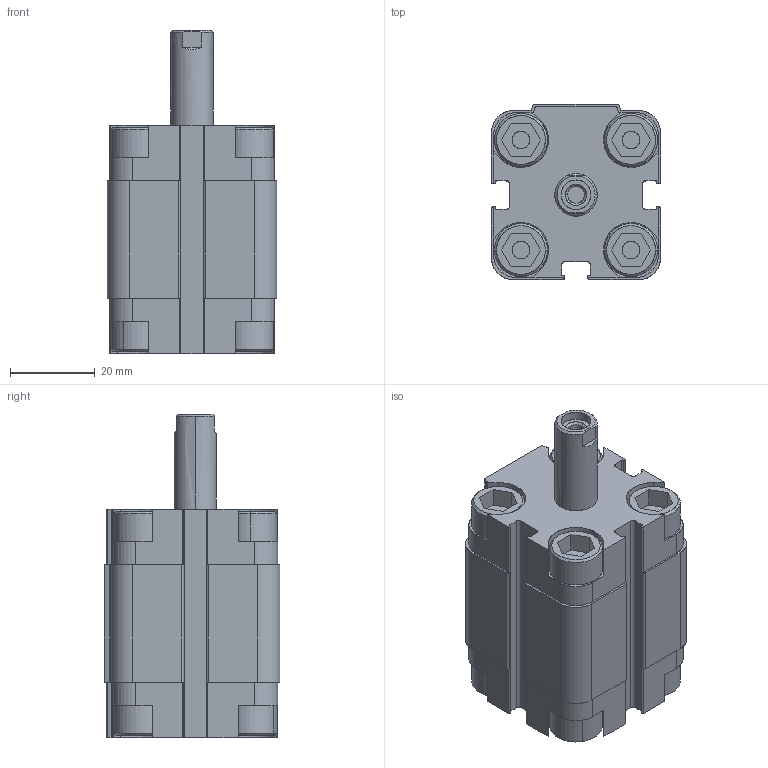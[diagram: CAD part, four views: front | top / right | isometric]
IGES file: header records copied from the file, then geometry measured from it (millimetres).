
Start section: SolidWorks IGES file using analytic representation for surfaces
Global section: file name: K:\Disegni Esecutivi\Cilindri\2_DISEGNI_cilindri_in_produzione\5_Cilindri Compatti\complessivicompatti\QD\QD025\QD025PARTI\QD0250015A.igs; native system: SolidWorks 2011; preprocessor: SolidWorks 2011; author: Cad01; date: 110915.102544; units: millimetre
Bounding box: 40 x 41.5 x 76.4 mm (x, y, z)
Surface area: 18905.9 mm2 (no closed solid volume)
Topology: 0 solids, 0 shells, 327 faces, 3743 edges, 3743 vertices
Faces by surface type: bspline 186, revolution 141
